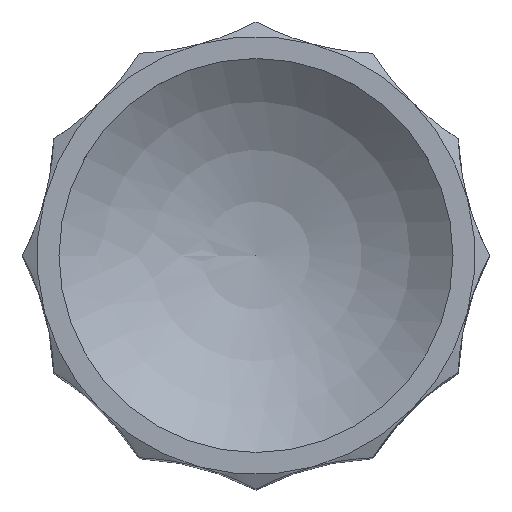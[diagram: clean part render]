
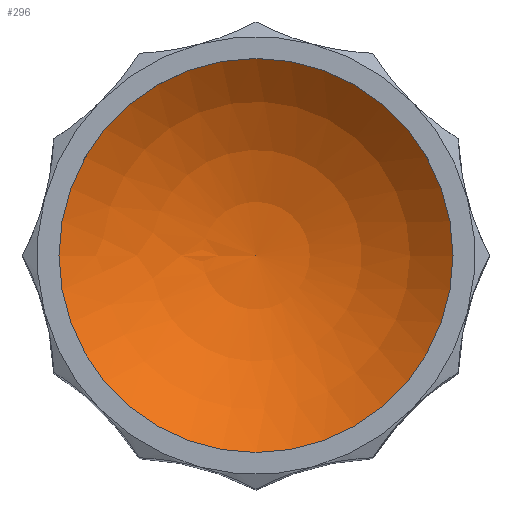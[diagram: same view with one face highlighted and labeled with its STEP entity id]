
A CAD part, top view. The second image highlights one B-rep face of the part: STEP entity #296.
In plain terms, the highlighted spherical face has radius 10 mm.
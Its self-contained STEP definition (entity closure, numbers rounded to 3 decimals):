
#296=ADVANCED_FACE('',(#706),#708,.F.);
#706=FACE_OUTER_BOUND('',#707,.T.);
#707=EDGE_LOOP('',(#1009));
#708=SPHERICAL_SURFACE('',#709,10.);
#709=AXIS2_PLACEMENT_3D('',#710,#711,#712);
#710=CARTESIAN_POINT('',(0.,0.,26.711));
#711=DIRECTION('',(0.,0.,-1.));
#712=DIRECTION('',(-1.,0.,0.));
#1009=ORIENTED_EDGE('',*,*,#1154,.F.);
#1154=EDGE_CURVE('',#1303,#1303,#1304,.T.);
#1303=VERTEX_POINT('',#1814);
#1304=CIRCLE('',#1815,6.75);
#1814=CARTESIAN_POINT('',(-6.75,0.,19.333));
#1815=AXIS2_PLACEMENT_3D('',#1816,#1817,#1818);
#1816=CARTESIAN_POINT('',(0.,0.,19.333));
#1817=DIRECTION('',(0.,0.,-1.));
#1818=DIRECTION('',(-1.,0.,0.));
